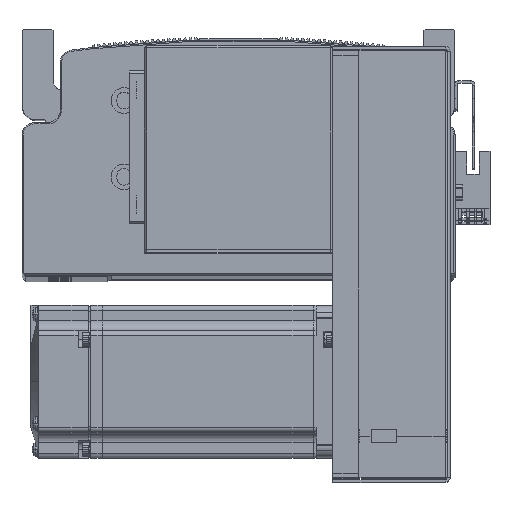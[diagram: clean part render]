
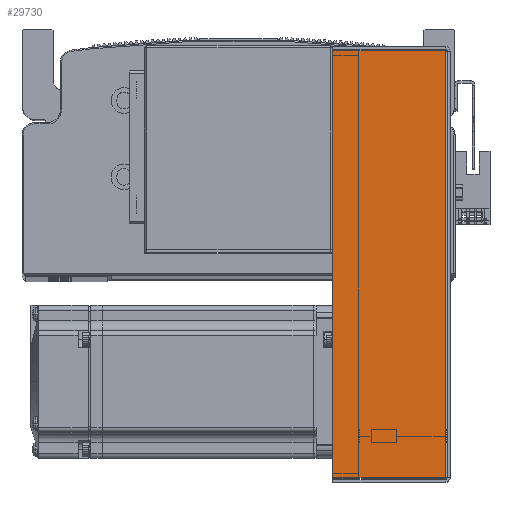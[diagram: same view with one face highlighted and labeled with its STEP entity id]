
A CAD part, top view. The second image highlights one B-rep face of the part: STEP entity #29730.
In plain terms, the highlighted planar face has unit normal (0, 0, 1) as drawn and (0, 0, -1) by its records, which use the part's own axes.
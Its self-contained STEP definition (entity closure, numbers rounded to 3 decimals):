
#3605 = VECTOR ( 'NONE', #12320, 1000. ) ;
#3615 = LINE ( 'NONE', #12332, #3605 ) ;
#3653 = LINE ( 'NONE', #12358, #3670 ) ;
#3670 = VECTOR ( 'NONE', #12350, 1000. ) ;
#4923 = LINE ( 'NONE', #12231, #4927 ) ;
#4927 = VECTOR ( 'NONE', #12288, 1000. ) ;
#5098 = LINE ( 'NONE', #12216, #5100 ) ;
#5100 = VECTOR ( 'NONE', #12203, 1000. ) ;
#12203 = DIRECTION ( 'NONE',  ( 1., 0., 0. ) ) ;
#12216 = CARTESIAN_POINT ( 'NONE',  ( 84.5, 45., -40.5 ) ) ;
#12231 = CARTESIAN_POINT ( 'NONE',  ( -83.793, 0., -40.5 ) ) ;
#12288 = DIRECTION ( 'NONE',  ( 0., 1., 0. ) ) ;
#12320 = DIRECTION ( 'NONE',  ( 1., 0., 0. ) ) ;
#12332 = CARTESIAN_POINT ( 'NONE',  ( 0., 0.737, -40.5 ) ) ;
#12350 = DIRECTION ( 'NONE',  ( 0., 1., 0. ) ) ;
#12358 = CARTESIAN_POINT ( 'NONE',  ( 83.793, 0., -40.5 ) ) ;
#29730 = ADVANCED_FACE ( 'NONE', ( #36005 ), #52077, .F. ) ;
#34025 = VERTEX_POINT ( 'NONE', #87515 ) ;
#34067 = VERTEX_POINT ( 'NONE', #86473 ) ;
#34120 = VERTEX_POINT ( 'NONE', #86537 ) ;
#34211 = VERTEX_POINT ( 'NONE', #86547 ) ;
#36005 = FACE_OUTER_BOUND ( 'NONE', #70795, .T. ) ;
#37814 = AXIS2_PLACEMENT_3D ( 'NONE', #52072, #52056, #52073 ) ;
#52056 = DIRECTION ( 'NONE',  ( 0., 0., 1. ) ) ;
#52072 = CARTESIAN_POINT ( 'NONE',  ( 0., 0., -40.5 ) ) ;
#52073 = DIRECTION ( 'NONE',  ( 0., -1., 0. ) ) ;
#52077 = PLANE ( 'NONE',  #37814 ) ;
#67846 = EDGE_CURVE ( 'NONE', #34025, #34067, #5098, .T. ) ;
#67873 = EDGE_CURVE ( 'NONE', #34120, #34025, #4923, .T. ) ;
#67911 = EDGE_CURVE ( 'NONE', #34120, #34211, #3615, .T. ) ;
#67963 = EDGE_CURVE ( 'NONE', #34211, #34067, #3653, .T. ) ;
#69201 = ORIENTED_EDGE ( 'NONE', *, *, #67873, .T. ) ;
#69258 = ORIENTED_EDGE ( 'NONE', *, *, #67963, .F. ) ;
#69325 = ORIENTED_EDGE ( 'NONE', *, *, #67846, .T. ) ;
#69352 = ORIENTED_EDGE ( 'NONE', *, *, #67911, .F. ) ;
#70795 = EDGE_LOOP ( 'NONE', ( #69352, #69201, #69325, #69258 ) ) ;
#86473 = CARTESIAN_POINT ( 'NONE',  ( 83.793, 45., -40.5 ) ) ;
#86537 = CARTESIAN_POINT ( 'NONE',  ( -83.793, 0.737, -40.5 ) ) ;
#86547 = CARTESIAN_POINT ( 'NONE',  ( 83.793, 0.737, -40.5 ) ) ;
#87515 = CARTESIAN_POINT ( 'NONE',  ( -83.793, 45., -40.5 ) ) ;
